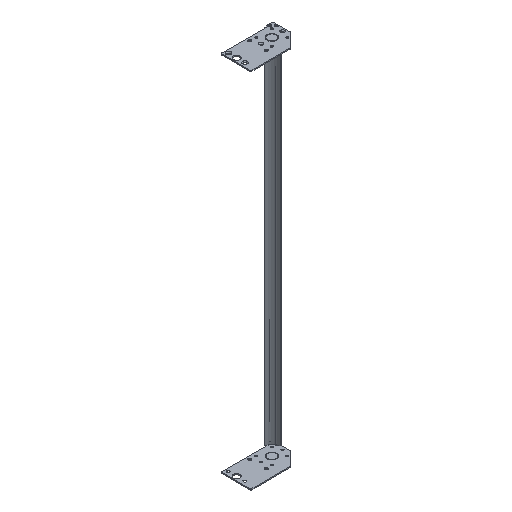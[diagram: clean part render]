
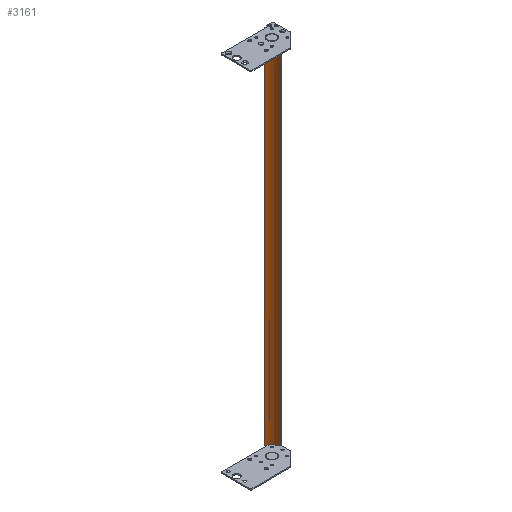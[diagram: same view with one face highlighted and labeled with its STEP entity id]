
A CAD part, isometric view. The second image highlights one B-rep face of the part: STEP entity #3161.
In plain terms, the highlighted cylindrical face has radius 40.64 mm (diameter 81.28 mm), a partial arc.
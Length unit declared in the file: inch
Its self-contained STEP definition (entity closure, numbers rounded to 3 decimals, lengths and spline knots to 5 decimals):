
#2809=CARTESIAN_POINT('',(-1.63,-1.52,-21.118));
#2810=DIRECTION('',(0.,0.,1.));
#2811=DIRECTION('',(0.946,0.325,0.));
#2812=AXIS2_PLACEMENT_3D('',#2809,#2810,#2811);
#2860=DIRECTION('',(0.,0.,1.));
#2861=VECTOR('',#2860,42.236);
#2862=CARTESIAN_POINT('',(-0.98126,-0.05742,-21.118));
#2863=LINE('',#2862,#2861);
#2879=CARTESIAN_POINT('',(-1.63,-1.52,21.118));
#2880=DIRECTION('',(0.,0.,-1.));
#2881=DIRECTION('',(0.405,0.914,0.));
#2882=AXIS2_PLACEMENT_3D('',#2879,#2880,#2881);
#2929=DIRECTION('',(0.,0.,1.));
#2930=VECTOR('',#2929,42.236);
#2931=CARTESIAN_POINT('',(-0.11675,-1.00032,-21.118));
#2932=LINE('',#2931,#2930);
#2953=CARTESIAN_POINT('',(-0.11675,-1.00032,-21.118));
#2954=CARTESIAN_POINT('',(-0.11675,-1.00032,21.118));
#2955=VERTEX_POINT('',#2953);
#2956=VERTEX_POINT('',#2954);
#2957=CARTESIAN_POINT('',(-0.98126,-0.05742,-21.118));
#2958=VERTEX_POINT('',#2957);
#2983=CARTESIAN_POINT('',(-0.98126,-0.05742,21.118));
#2984=VERTEX_POINT('',#2983);
#3150=CARTESIAN_POINT('',(-1.63,-1.52,21.118));
#3151=DIRECTION('',(0.,0.,-1.));
#3152=DIRECTION('',(-1.,0.,0.));
#3153=AXIS2_PLACEMENT_3D('',#3150,#3151,#3152);
#3154=CYLINDRICAL_SURFACE('',#3153,1.6);
#3155=ORIENTED_EDGE('',*,*,#3014,.T.);
#3156=ORIENTED_EDGE('',*,*,#3060,.T.);
#3157=ORIENTED_EDGE('',*,*,#3081,.T.);
#3158=ORIENTED_EDGE('',*,*,#3143,.F.);
#3159=EDGE_LOOP('',(#3155,#3156,#3157,#3158));
#3160=FACE_OUTER_BOUND('',#3159,.F.);
#2813=CIRCLE('',#2812,1.6);
#2883=CIRCLE('',#2882,1.6);
#3014=EDGE_CURVE('',#2955,#2958,#2813,.T.);
#3060=EDGE_CURVE('',#2958,#2984,#2863,.T.);
#3081=EDGE_CURVE('',#2984,#2956,#2883,.T.);
#3143=EDGE_CURVE('',#2955,#2956,#2932,.T.);
#3161=ADVANCED_FACE('',(#3160),#3154,.F.);
